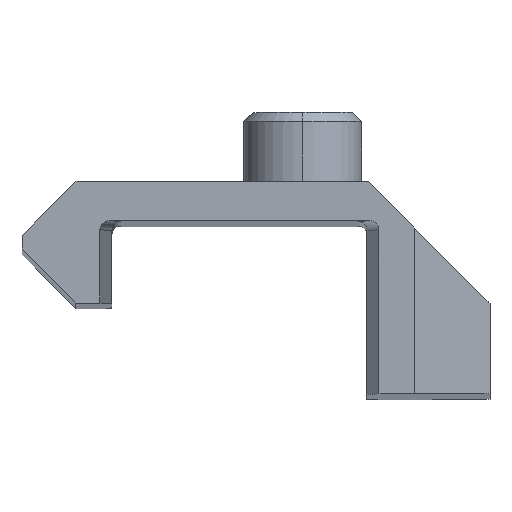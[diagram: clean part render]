
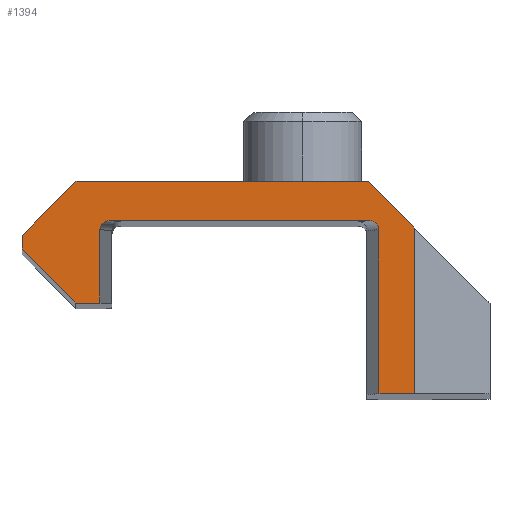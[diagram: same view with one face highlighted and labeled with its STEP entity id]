
A CAD part, top view. The second image highlights one B-rep face of the part: STEP entity #1394.
In plain terms, the highlighted planar face has unit normal (0, 0, 1).
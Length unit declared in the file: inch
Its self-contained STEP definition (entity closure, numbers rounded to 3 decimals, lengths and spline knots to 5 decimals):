
#7 = VECTOR ( 'NONE', #452, 39.37008 ) ;
#25 = VERTEX_POINT ( 'NONE', #89 ) ;
#38 = VERTEX_POINT ( 'NONE', #390 ) ;
#46 = VERTEX_POINT ( 'NONE', #389 ) ;
#49 = VERTEX_POINT ( 'NONE', #411 ) ;
#79 = VERTEX_POINT ( 'NONE', #427 ) ;
#81 = VERTEX_POINT ( 'NONE', #432 ) ;
#85 = VERTEX_POINT ( 'NONE', #457 ) ;
#86 = VERTEX_POINT ( 'NONE', #433 ) ;
#89 = CARTESIAN_POINT ( 'NONE',  ( -0.3, 0.17717, 5.48 ) ) ;
#102 = VERTEX_POINT ( 'NONE', #443 ) ;
#104 = VERTEX_POINT ( 'NONE', #442 ) ;
#109 = VERTEX_POINT ( 'NONE', #431 ) ;
#110 = VERTEX_POINT ( 'NONE', #455 ) ;
#112 = VERTEX_POINT ( 'NONE', #450 ) ;
#142 = EDGE_LOOP ( 'NONE', ( #182, #171, #243, #179, #147, #174, #166, #177, #150, #172, #197, #201, #162 ) ) ;
#147 = ORIENTED_EDGE ( 'NONE', *, *, #1134, .T. ) ;
#150 = ORIENTED_EDGE ( 'NONE', *, *, #1428, .T. ) ;
#162 = ORIENTED_EDGE ( 'NONE', *, *, #1429, .T. ) ;
#166 = ORIENTED_EDGE ( 'NONE', *, *, #1354, .T. ) ;
#171 = ORIENTED_EDGE ( 'NONE', *, *, #1406, .T. ) ;
#172 = ORIENTED_EDGE ( 'NONE', *, *, #1432, .T. ) ;
#174 = ORIENTED_EDGE ( 'NONE', *, *, #1349, .T. ) ;
#177 = ORIENTED_EDGE ( 'NONE', *, *, #1375, .T. ) ;
#179 = ORIENTED_EDGE ( 'NONE', *, *, #1348, .T. ) ;
#182 = ORIENTED_EDGE ( 'NONE', *, *, #1378, .T. ) ;
#197 = ORIENTED_EDGE ( 'NONE', *, *, #1117, .T. ) ;
#201 = ORIENTED_EDGE ( 'NONE', *, *, #1426, .T. ) ;
#243 = ORIENTED_EDGE ( 'NONE', *, *, #1332, .T. ) ;
#389 = CARTESIAN_POINT ( 'NONE',  ( 0.265, 0.09917, 5.48 ) ) ;
#390 = CARTESIAN_POINT ( 'NONE',  ( -0.39, 0.08717, 5.48 ) ) ;
#411 = CARTESIAN_POINT ( 'NONE',  ( 0.187, 0.17717, 5.48 ) ) ;
#427 = CARTESIAN_POINT ( 'NONE',  ( -0.3, -0.02583, 5.48 ) ) ;
#431 = CARTESIAN_POINT ( 'NONE',  ( 0.205, -0.17717, 5.48 ) ) ;
#432 = CARTESIAN_POINT ( 'NONE',  ( -0.24498, 0.11117, 5.48 ) ) ;
#433 = CARTESIAN_POINT ( 'NONE',  ( 0.205, 0.09617, 5.48 ) ) ;
#440 = LINE ( 'NONE', #451, #7 ) ;
#442 = CARTESIAN_POINT ( 'NONE',  ( -0.39, 0.06417, 5.48 ) ) ;
#443 = CARTESIAN_POINT ( 'NONE',  ( -0.26, -0.02583, 5.48 ) ) ;
#450 = CARTESIAN_POINT ( 'NONE',  ( 0.265, -0.17717, 5.48 ) ) ;
#451 = CARTESIAN_POINT ( 'NONE',  ( 0.185, 0.11117, 5.48 ) ) ;
#452 = DIRECTION ( 'NONE',  ( 1., 0., 0. ) ) ;
#455 = CARTESIAN_POINT ( 'NONE',  ( 0.18998, 0.11117, 5.48 ) ) ;
#457 = CARTESIAN_POINT ( 'NONE',  ( -0.26, 0.09617, 5.48 ) ) ;
#470 = CARTESIAN_POINT ( 'NONE',  ( -0.3, -0.02583, 5.48 ) ) ;
#473 = DIRECTION ( 'NONE',  ( 0.707, -0.707, 0. ) ) ;
#478 = LINE ( 'NONE', #470, #931 ) ;
#485 = DIRECTION ( 'NONE',  ( 0., -1., 0. ) ) ;
#491 = DIRECTION ( 'NONE',  ( -1., 0., 0. ) ) ;
#493 = CARTESIAN_POINT ( 'NONE',  ( -0.39, 0.06417, 5.48 ) ) ;
#494 = CARTESIAN_POINT ( 'NONE',  ( -0.3, 0.17717, 5.48 ) ) ;
#499 = LINE ( 'NONE', #493, #920 ) ;
#500 = LINE ( 'NONE', #494, #940 ) ;
#515 = CARTESIAN_POINT ( 'NONE',  ( -0.24, -0.02583, 5.48 ) ) ;
#546 = LINE ( 'NONE', #515, #936 ) ;
#557 = CARTESIAN_POINT ( 'NONE',  ( 0.39, -0.17717, 5.48 ) ) ;
#572 = DIRECTION ( 'NONE',  ( 1., 0., 0. ) ) ;
#573 = LINE ( 'NONE', #557, #938 ) ;
#577 = DIRECTION ( 'NONE',  ( 1., 0., 0. ) ) ;
#609 = DIRECTION ( 'NONE',  ( 0., 0., 1. ) ) ;
#613 = CARTESIAN_POINT ( 'NONE',  ( -0.0565, 0.42067, 5.48 ) ) ;
#622 = PLANE ( 'NONE',  #971 ) ;
#628 = DIRECTION ( 'NONE',  ( 1., 0., 0. ) ) ;
#642 = FACE_OUTER_BOUND ( 'NONE', #142, .T. ) ;
#658 = DIRECTION ( 'NONE',  ( 0., 1., 0. ) ) ;
#683 = CARTESIAN_POINT ( 'NONE',  ( 0.265, -0.02583, 5.48 ) ) ;
#684 = LINE ( 'NONE', #683, #1017 ) ;
#751 = LINE ( 'NONE', #796, #977 ) ;
#755 = CARTESIAN_POINT ( 'NONE',  ( 0.18998, 0.11117, 5.48 ) ) ;
#760 = CARTESIAN_POINT ( 'NONE',  ( -0.26, 0.09617, 5.48 ) ) ;
#766 = CARTESIAN_POINT ( 'NONE',  ( 0.205, 0.09617, 5.48 ) ) ;
#769 = CARTESIAN_POINT ( 'NONE',  ( -0.26, 0.10495, 5.48 ) ) ;
#777 = DIRECTION ( 'NONE',  ( 0., -1., 0. ) ) ;
#779 = LINE ( 'NONE', #784, #993 ) ;
#782 = CARTESIAN_POINT ( 'NONE',  ( 0.19878, 0.11117, 5.48 ) ) ;
#784 = CARTESIAN_POINT ( 'NONE',  ( 0.205, -0.17717, 5.48 ) ) ;
#791 = DIRECTION ( 'NONE',  ( 0., 1., 0. ) ) ;
#792 = CARTESIAN_POINT ( 'NONE',  ( -0.25378, 0.11117, 5.48 ) ) ;
#793 = CARTESIAN_POINT ( 'NONE',  ( -0.24498, 0.11117, 5.48 ) ) ;
#794 = CARTESIAN_POINT ( 'NONE',  ( 0.205, 0.10495, 5.48 ) ) ;
#796 = CARTESIAN_POINT ( 'NONE',  ( -0.26, 0.11117, 5.48 ) ) ;
#920 = VECTOR ( 'NONE', #485, 39.37008 ) ;
#931 = VECTOR ( 'NONE', #473, 39.37008 ) ;
#936 = VECTOR ( 'NONE', #572, 39.37008 ) ;
#938 = VECTOR ( 'NONE', #577, 39.37008 ) ;
#940 = VECTOR ( 'NONE', #491, 39.37008 ) ;
#971 = AXIS2_PLACEMENT_3D ( 'NONE', #613, #609, #628 ) ;
#977 = VECTOR ( 'NONE', #791, 39.37008 ) ;
#993 = VECTOR ( 'NONE', #777, 39.37008 ) ;
#1017 = VECTOR ( 'NONE', #658, 39.37008 ) ;
#1093 = VECTOR ( 'NONE', #1301, 39.37008 ) ;
#1094 = VECTOR ( 'NONE', #1220, 39.37008 ) ;
#1117 = EDGE_CURVE ( 'NONE', #81, #110, #440, .T. ) ;
#1134 = EDGE_CURVE ( 'NONE', #25, #38, #1208, .T. ) ;
#1208 = LINE ( 'NONE', #1213, #1094 ) ;
#1213 = CARTESIAN_POINT ( 'NONE',  ( -0.39, 0.08717, 5.48 ) ) ;
#1220 = DIRECTION ( 'NONE',  ( -0.707, -0.707, 0. ) ) ;
#1292 = LINE ( 'NONE', #1298, #1093 ) ;
#1298 = CARTESIAN_POINT ( 'NONE',  ( 0.187, 0.17717, 5.48 ) ) ;
#1301 = DIRECTION ( 'NONE',  ( -0.707, 0.707, 0. ) ) ;
#1332 = EDGE_CURVE ( 'NONE', #46, #49, #1292, .T. ) ;
#1348 = EDGE_CURVE ( 'NONE', #49, #25, #500, .T. ) ;
#1349 = EDGE_CURVE ( 'NONE', #38, #104, #499, .T. ) ;
#1354 = EDGE_CURVE ( 'NONE', #104, #79, #478, .T. ) ;
#1375 = EDGE_CURVE ( 'NONE', #79, #102, #546, .T. ) ;
#1378 = EDGE_CURVE ( 'NONE', #109, #112, #573, .T. ) ;
#1394 = ADVANCED_FACE ( 'NONE', ( #642 ), #622, .T. ) ;
#1406 = EDGE_CURVE ( 'NONE', #112, #46, #684, .T. ) ;
#1426 = EDGE_CURVE ( 'NONE', #110, #86, #1459, .T. ) ;
#1428 = EDGE_CURVE ( 'NONE', #102, #85, #751, .T. ) ;
#1429 = EDGE_CURVE ( 'NONE', #86, #109, #779, .T. ) ;
#1432 = EDGE_CURVE ( 'NONE', #85, #81, #1460, .T. ) ;
#1459 =( BOUNDED_CURVE ( )  B_SPLINE_CURVE ( 3, ( #755, #782, #794, #766 ),
 .UNSPECIFIED., .F., .F. ) 
 B_SPLINE_CURVE_WITH_KNOTS ( ( 4, 4 ),
 ( 4.71239, 6.28319 ),
 .UNSPECIFIED. ) 
 CURVE ( )  GEOMETRIC_REPRESENTATION_ITEM ( )  RATIONAL_B_SPLINE_CURVE ( ( 1., 0.805, 0.805, 1. ) ) 
 REPRESENTATION_ITEM ( '' )  );
#1460 =( BOUNDED_CURVE ( )  B_SPLINE_CURVE ( 3, ( #760, #769, #792, #793 ),
 .UNSPECIFIED., .F., .T. ) 
 B_SPLINE_CURVE_WITH_KNOTS ( ( 4, 4 ),
 ( 3.14159, 4.71239 ),
 .UNSPECIFIED. ) 
 CURVE ( )  GEOMETRIC_REPRESENTATION_ITEM ( )  RATIONAL_B_SPLINE_CURVE ( ( 1., 0.805, 0.805, 1. ) ) 
 REPRESENTATION_ITEM ( '' )  );
